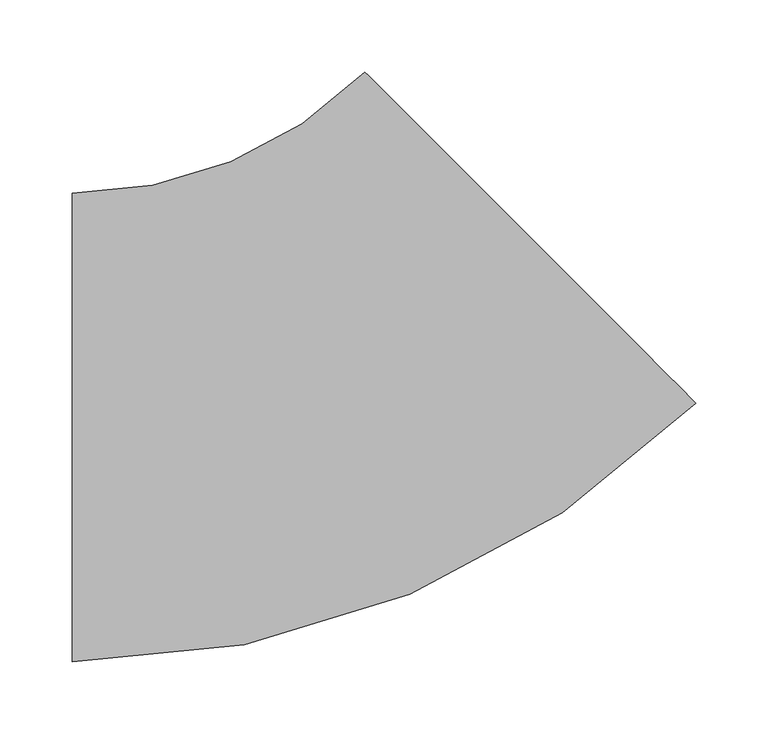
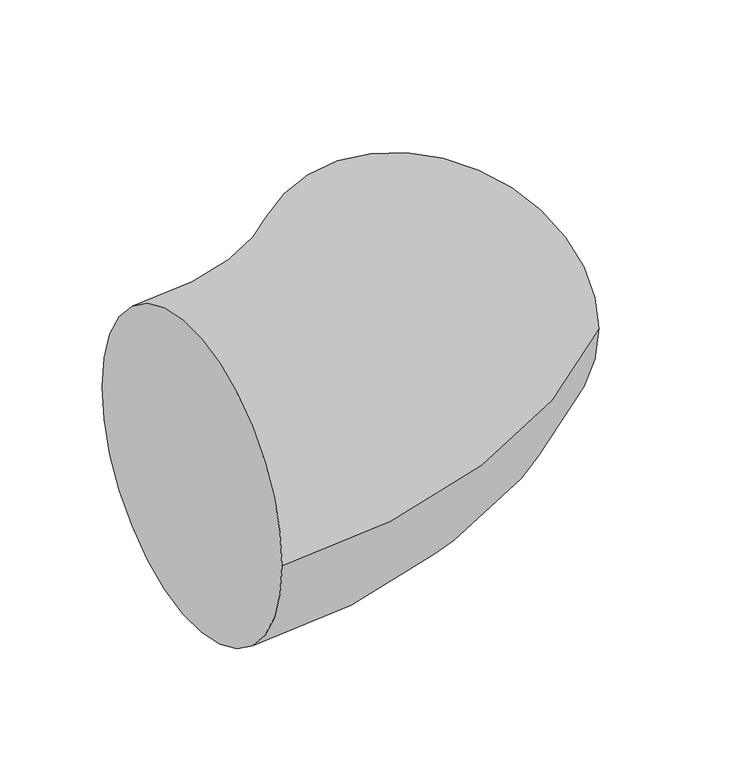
"""IFC4 building model written with IfcOpenShell, lengths in millimetres: pipe fitting geometry, ADSK_ДетальСтальнаяСварная_Отвод_ГОСТ17375-2001 : Исполнение 2."""

from ifc_helpers import new_model, si_unit, point, frame, origin, place, context, project, spatial, circle_curve, ellipse_curve, trimmed, source, transform, mapped, element, save
from ifc_brep_helpers import plane_surface, revolved_surface, advanced_brep


def pipe_fitting_64e53170(model_context):
    return source(origin(), model_context, "Body", "AdvancedBrep", [
        advanced_brep(
        [(-186.3961031, -162.5, 0.0), (-186.3961031, 162.5, 0.0), (246.7068004, 16.8970965, 0.0), (16.8970965, 246.7068004, 0.0)],
        [
            (0, 1, circle_curve(frame((-186.3961031, 0.0, 0.0), z_axis=(-1.0, 0.0, 0.0), x_axis=(0.0, 1.0, 0.0)), 162.5)),
            (1, 0, circle_curve(frame((-186.3961031, 0.0, 0.0), z_axis=(-1.0, 0.0, 0.0), x_axis=(0.0, 1.0, 0.0)), 162.5)),
            (2, 3, circle_curve(frame((131.8019485, 131.8019485, 0.0), z_axis=(0.7071067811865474, 0.7071067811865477, 0.0), x_axis=(-0.7071067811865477, 0.7071067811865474, 0.0)), 162.5)),
            (3, 2, circle_curve(frame((131.8019485, 131.8019485, 0.0), z_axis=(0.7071067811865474, 0.7071067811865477, 0.0), x_axis=(-0.7071067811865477, 0.7071067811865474, 0.0)), 162.5)),
            (3, 1, circle_curve(frame((-186.3961031, 450.0, 0.0), z_axis=(0.0, 0.0, -1.0), x_axis=(0.0, -1.0, 0.0)), 287.5)),
            (0, 2, circle_curve(frame((-186.3961031, 450.0, 0.0), z_axis=(0.0, 0.0, 1.0), x_axis=(0.0, -1.0, 0.0)), 612.5)),
        ],
        [
            plane_surface(frame((-186.3961031, 0.0, 0.0), z_axis=(-1.0, 0.0, 0.0), x_axis=(0.0, 0.0, 1.0))),
            plane_surface(frame((131.8019485, 131.8019485, 0.0), z_axis=(0.7071067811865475, 0.7071067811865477, 0.0), x_axis=(0.0, 0.0, 1.0))),
            revolved_surface(trimmed(ellipse_curve(frame((-186.3961031, 0.0, 0.0), z_axis=(-1.0, 0.0, 0.0), x_axis=(0.0, 1.0, 0.0)), 162.5, 162.5), [point((-186.3961031, -162.5, 0.0))], [point((-186.3961031, 162.5, 0.0))], True, "CARTESIAN"), (-186.3961031, 450.0, 0.0), (0.0, 0.0, 1.0)),
            revolved_surface(trimmed(ellipse_curve(frame((-186.3961031, 0.0, 0.0), z_axis=(-1.0, 0.0, 0.0), x_axis=(0.0, 1.0, 0.0)), 162.5, 162.5), [point((-186.3961031, 162.5, 0.0))], [point((-186.3961031, -162.5, 0.0))], True, "CARTESIAN"), (-186.3961031, 450.0, 0.0), (0.0, 0.0, 1.0)),
        ],
        [
            (0, [[1, 2]]),
            (1, [[3, 4]]),
            (2, [[5, -1, 6, -4]]),
            (3, [[-6, -2, -5, -3]]),
        ],
    ),
    ])


if __name__ == "__main__":
    model = new_model("IFC4")
    model_context = context("Model", 3, world=origin())
    ifc_project = project(units=[si_unit("LENGTHUNIT", "METRE", prefix="MILLI")], contexts=[model_context])
    site = spatial("IfcSite", under=ifc_project)
    building = spatial("IfcBuilding", under=site)
    placement = place(None, origin())
    pipe_fitting_shape = pipe_fitting_64e53170(model_context)
    element("IfcPipeFitting", 1, ObjectType="ADSK_ДетальСтальнаяСварная_Отвод_ГОСТ17375-2001 : Исполнение 2", at=placement, inside=building, context=model_context, shape_type="MappedRepresentation", body=[
        mapped(pipe_fitting_shape, transform((0.0, 0.0, 0.0), x_axis=(1.0, 0.0, 0.0), y_axis=(0.0, 1.0, 0.0), z_axis=(0.0, 0.0, 1.0))),
    ])
    save(model, "model.ifc")
